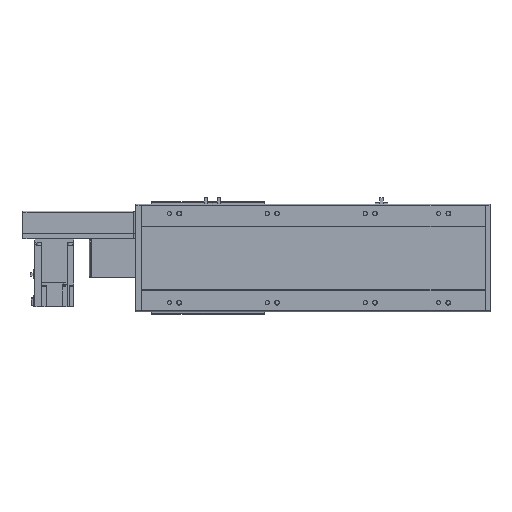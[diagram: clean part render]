
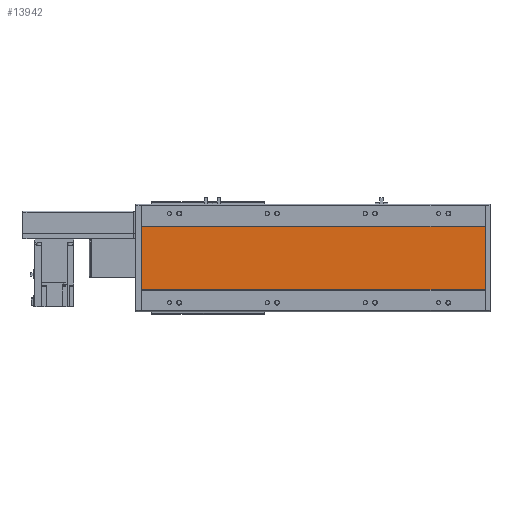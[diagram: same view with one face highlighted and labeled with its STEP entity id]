
A CAD part, front view. The second image highlights one B-rep face of the part: STEP entity #13942.
In plain terms, the highlighted planar face has unit normal (0, -1, 0).
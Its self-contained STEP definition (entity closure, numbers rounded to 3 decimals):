
#3097=ORIENTED_EDGE('',*,*,#6246,.T.);
#3098=ORIENTED_EDGE('',*,*,#6247,.F.);
#3099=ORIENTED_EDGE('',*,*,#6248,.F.);
#3100=ORIENTED_EDGE('',*,*,#6244,.T.);
#6244=EDGE_CURVE('',#7941,#7940,#9194,.T.);
#6246=EDGE_CURVE('',#7940,#7942,#9195,.T.);
#6247=EDGE_CURVE('',#7943,#7942,#9196,.T.);
#6248=EDGE_CURVE('',#7941,#7943,#9197,.T.);
#7940=VERTEX_POINT('',#22927);
#7941=VERTEX_POINT('',#22929);
#7942=VERTEX_POINT('',#22933);
#7943=VERTEX_POINT('',#22935);
#9194=LINE('',#22928,#10531);
#9195=LINE('',#22932,#10532);
#9196=LINE('',#22934,#10533);
#9197=LINE('',#22936,#10534);
#10531=VECTOR('',#18371,1000.);
#10532=VECTOR('',#18376,1000.);
#10533=VECTOR('',#18377,1000.);
#10534=VECTOR('',#18378,1000.);
#11474=EDGE_LOOP('',(#3097,#3098,#3099,#3100));
#12499=FACE_BOUND('',#11474,.T.);
#13297=PLANE('',#15202);
#13942=ADVANCED_FACE('',(#12499),#13297,.F.);
#15202=AXIS2_PLACEMENT_3D('',#22931,#18374,#18375);
#18371=DIRECTION('',(-1.,0.,0.));
#18374=DIRECTION('',(0.,1.,0.));
#18375=DIRECTION('',(0.,0.,1.));
#18376=DIRECTION('',(0.,0.,-1.));
#18377=DIRECTION('',(-1.,0.,0.));
#18378=DIRECTION('',(0.,0.,-1.));
#22927=CARTESIAN_POINT('',(12.,1.,64.294));
#22928=CARTESIAN_POINT('',(714.,1.,64.294));
#22929=CARTESIAN_POINT('',(714.,1.,64.294));
#22931=CARTESIAN_POINT('',(714.,1.,64.294));
#22932=CARTESIAN_POINT('',(12.,1.,64.294));
#22933=CARTESIAN_POINT('',(12.,1.,-64.294));
#22934=CARTESIAN_POINT('',(714.,1.,-64.294));
#22935=CARTESIAN_POINT('',(714.,1.,-64.294));
#22936=CARTESIAN_POINT('',(714.,1.,64.294));
